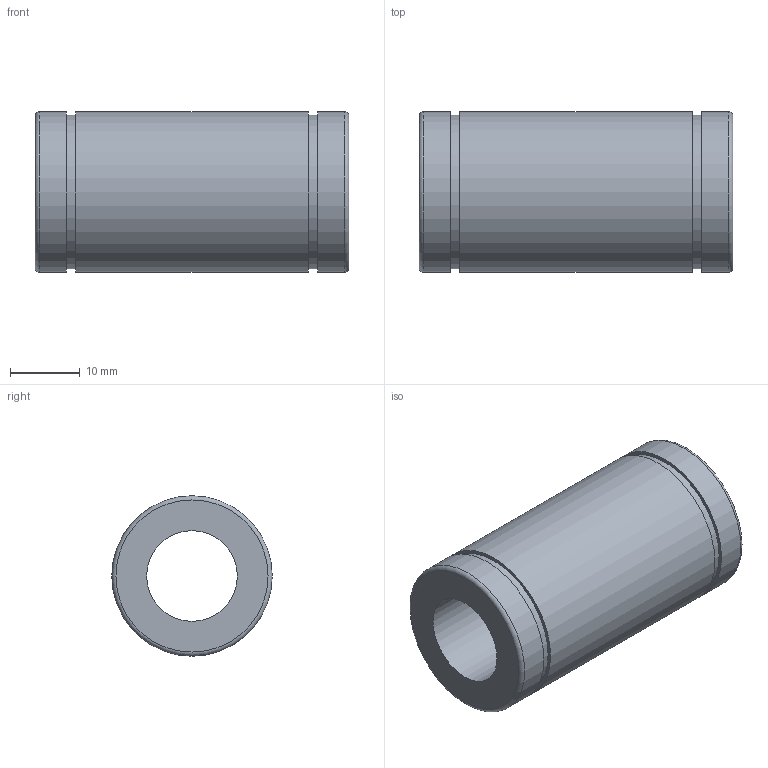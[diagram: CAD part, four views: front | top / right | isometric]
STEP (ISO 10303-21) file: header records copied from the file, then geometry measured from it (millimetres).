
FILE_DESCRIPTION(('STEP AP203'),'1');
FILE_NAME('//192.168.1.1/share/s-4 技術開発/s-4-13_CAD/03_見直し済み/001 修正済み/N-VM/N-VM_STEP/N-13VM.step','2020-04-08T00:09:25',(' '),(' '),'Spatial InterOp 3D',' ',' ');
FILE_SCHEMA(('CONFIG_CONTROL_DESIGN'));
Length unit declared in the file: millimetre
Products named in the file (1): 1
Bounding box: 45 x 23 x 23 mm (x, y, z)
Volume: 12617 mm3; surface area: 5750.2 mm2
Topology: 1 solids, 1 shells, 14 faces, 22 edges, 14 vertices
Faces by surface type: plane 6, cylinder 6, torus 2
Full cylindrical faces by diameter (mm): 13 x1, 22 x2, 23 x3
Entity records: 332 total; most frequent: DIRECTION 58, CARTESIAN_POINT 43, AXIS2_PLACEMENT_3D 29, EDGE_LOOP 28, ORIENTED_EDGE 28, FACE_OUTER_BOUND 22, ADVANCED_FACE 14, EDGE_CURVE 14
